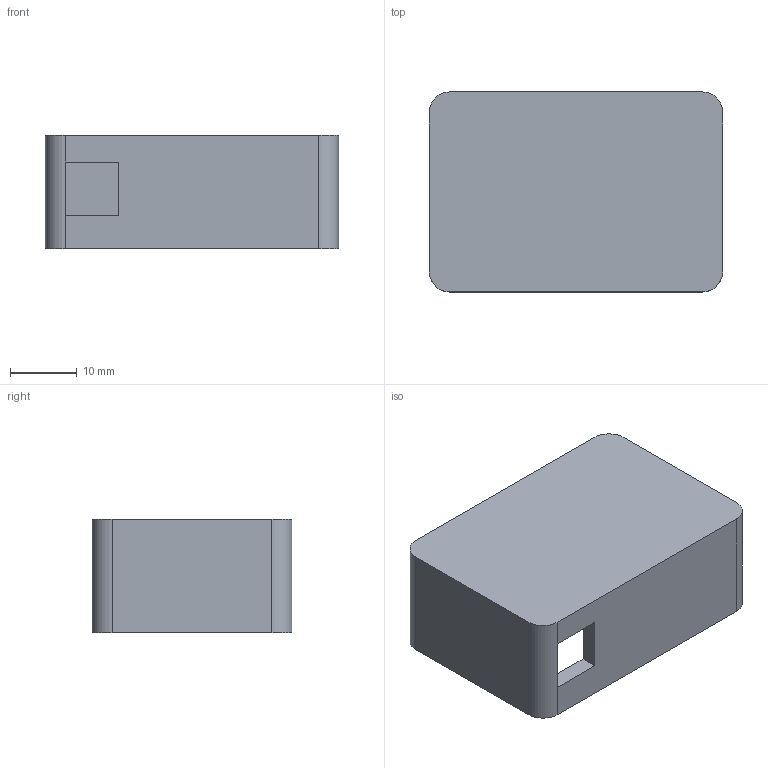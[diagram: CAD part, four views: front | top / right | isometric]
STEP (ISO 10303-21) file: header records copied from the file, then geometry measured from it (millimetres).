
FILE_DESCRIPTION(('FreeCAD Model'),'2;1');
FILE_NAME('Open CASCADE Shape Model','2026-11-06T11:24:15',('FreeCAD'),( 'FreeCAD'),'Open CASCADE STEP processor 7.8','FreeCAD','Unknown');
FILE_SCHEMA(('AUTOMOTIVE_DESIGN { 1 0 10303 214 1 1 1 1 }'));
Length unit declared in the file: millimetre
Products named in the file (1): Open CASCADE STEP translator 7.8 17
Bounding box: 44 x 30 x 17 mm (x, y, z)
Volume: 7278.7 mm3; surface area: 6834 mm2
Topology: 1 solids, 1 shells, 27 faces, 73 edges, 48 vertices
Faces by surface type: plane 23, cylinder 4
Entity records: 857 total; most frequent: CARTESIAN_POINT 149, ORIENTED_EDGE 146, DIRECTION 137, EDGE_CURVE 73, LINE 65, VECTOR 65, VERTEX_POINT 48, AXIS2_PLACEMENT_3D 36
